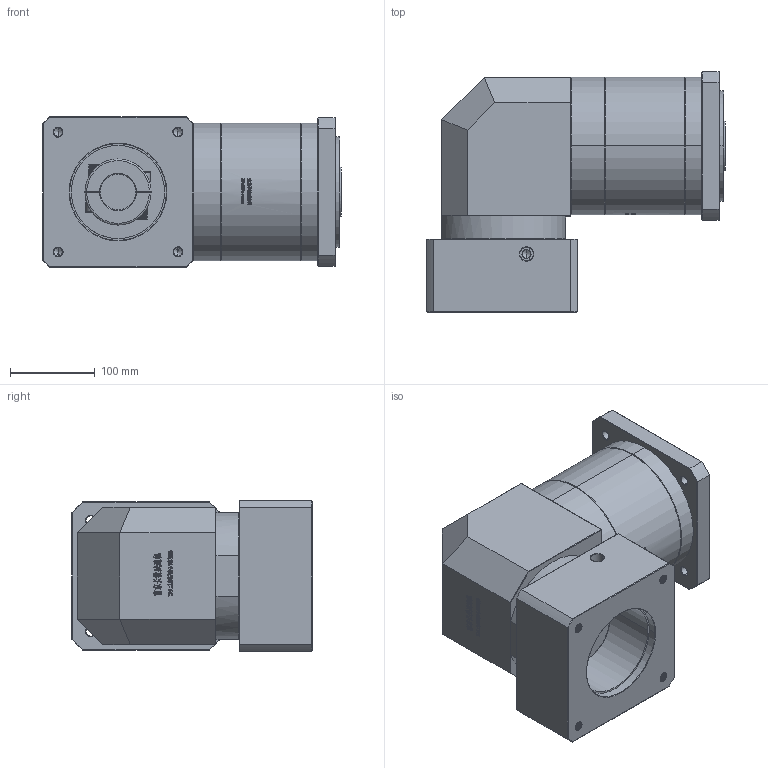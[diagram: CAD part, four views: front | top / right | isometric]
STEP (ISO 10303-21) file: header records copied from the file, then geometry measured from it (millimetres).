
FILE_DESCRIPTION (( 'STEP AP214' ), '1' );
FILE_NAME ('ZFR160A-K35-L3-42-114.3-200-M12.step', '2023-03-22T11:50:29', ( '' ), ( '' ), 'SwSTEP 2.0', 'SolidWorks 2016', '' );
FILE_SCHEMA (( 'AUTOMOTIVE_DESIGN' ));
Length unit declared in the file: millimetre
Products named in the file (1): ZFR160A-K35-L3-42-114.3-200-M12
Bounding box: 352.7 x 283.5 x 178 mm (x, y, z)
Volume: 9401051.9 mm3; surface area: 538188.6 mm2
Topology: 6 solids, 6 shells, 2447 faces, 6439 edges, 4145 vertices
Faces by surface type: plane 1266, bspline 490, cylinder 366, cone 305, torus 20
Entity records: 135474 total; most frequent: CARTESIAN_POINT 52215, ORIENTED_EDGE 12822, DIRECTION 9795, EDGE_CURVE 6411, VERTEX_POINT 4145, LINE 4091, VECTOR 4091, AXIS2_PLACEMENT_3D 2852
